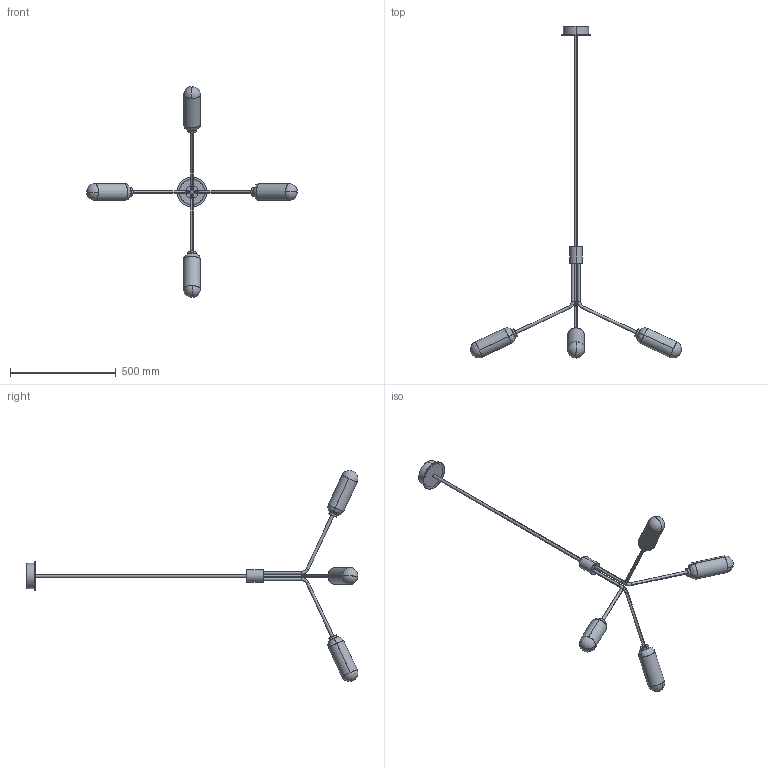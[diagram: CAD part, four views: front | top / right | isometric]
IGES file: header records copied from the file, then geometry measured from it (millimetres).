
Start section: SolidWorks IGES file using analytic representation for surfaces
Global section: file name: C:\Users\Agustin\Desktop\ARNOLD\2024 SEPTIEMBRE\2D\LARI\2D-3D C1333\LARI_C1333_4.IGS; native system: SolidWorks 2018; preprocessor: SolidWorks 2018; author: Agustin; date: 240918.105250; units: millimetre
Bounding box: 997.85 x 1569.81 x 997.85 mm (x, y, z)
Surface area: 791749.1 mm2 (no closed solid volume)
Topology: 0 solids, 0 shells, 136 faces, 2402 edges, 2396 vertices
Faces by surface type: revolution 72, bspline 64
